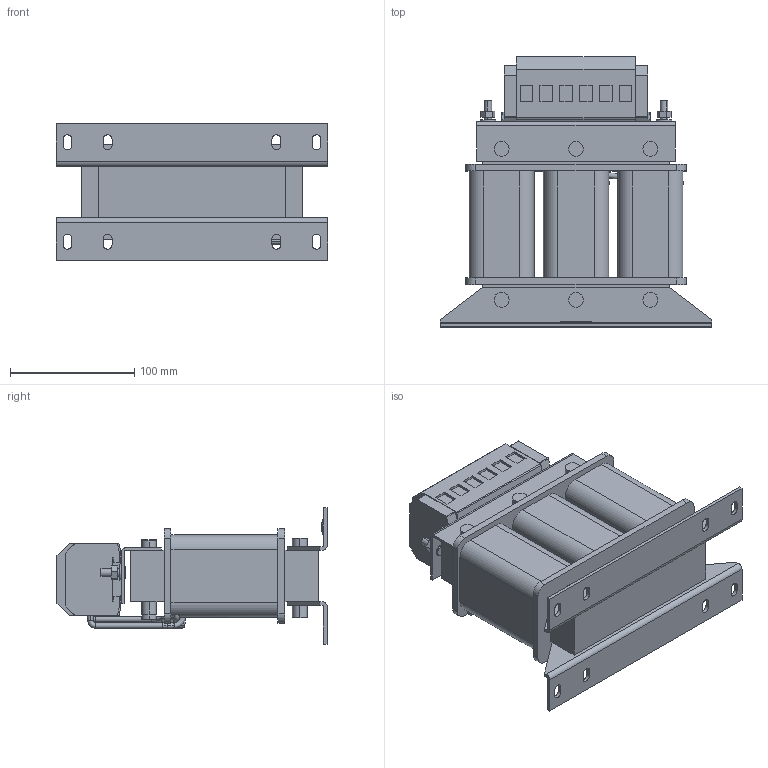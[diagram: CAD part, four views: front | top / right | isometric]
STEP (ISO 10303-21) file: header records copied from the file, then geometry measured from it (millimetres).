
FILE_DESCRIPTION (( 'STEP AP214' ), '1' );
FILE_NAME ('00Z10X0-0018.STEP', '2021-07-14T14:25:57', ( '' ), ( '' ), 'SwSTEP 2.0', 'SolidWorks 2019', '' );
FILE_SCHEMA (( 'AUTOMOTIVE_DESIGN' ));
Length unit declared in the file: millimetre
Products named in the file (1): 00Z10X0-0018
Bounding box: 219 x 217.9 x 110.3 mm (x, y, z)
Volume: 1809882.7 mm3; surface area: 210611.7 mm2
Topology: 1 solids, 1 shells, 479 faces, 1288 edges, 840 vertices
Faces by surface type: plane 243, cylinder 172, torus 42, bspline 22
Entity records: 17467 total; most frequent: CARTESIAN_POINT 5182, ORIENTED_EDGE 2576, DIRECTION 2429, EDGE_CURVE 1288, AXIS2_PLACEMENT_3D 868, VERTEX_POINT 840, VECTOR 693, LINE 693
